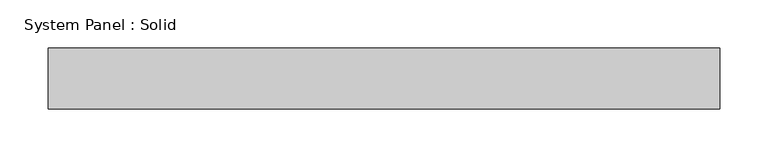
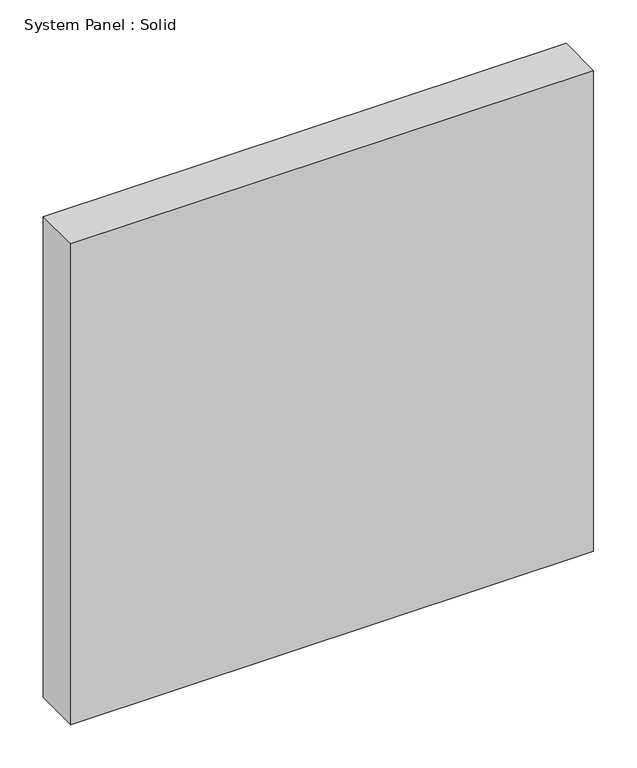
"""IFC4 building model written with IfcOpenShell, lengths in millimetres: plate geometry, System Panel : Solid."""

from ifc_helpers import new_model, si_unit, origin, origin_with_axes, place, context, project, spatial, polyline, outline, extrude, source, transform, mapped, element, save


def system_panel_solid_6039f36e(model_context):
    return source(origin(), model_context, "Body", "SweptSolid", [
        extrude(outline(polyline([(349.25, -19.05), (-349.25, -19.05), (-349.25, 44.45), (349.25, 44.45), (349.25, -19.05)])), origin_with_axes(), (0.0, 0.0, 1.0), 678.75),
    ])


if __name__ == "__main__":
    model = new_model("IFC4")
    model_context = context("Model", 3, world=origin())
    ifc_project = project(units=[si_unit("LENGTHUNIT", "METRE", prefix="MILLI")], contexts=[model_context])
    site = spatial("IfcSite", under=ifc_project)
    building = spatial("IfcBuilding", under=site)
    placement = place(None, origin())
    system_panel_solid_shape = system_panel_solid_6039f36e(model_context)
    element("IfcPlate", 1, ObjectType="System Panel : Solid", at=placement, inside=building, context=model_context, shape_type="MappedRepresentation", body=[
        mapped(system_panel_solid_shape, transform((0.0, 0.0, 0.0), x_axis=(1.0, 0.0, 0.0), y_axis=(0.0, 1.0, 0.0), z_axis=(0.0, 0.0, 1.0))),
    ])
    save(model, "model.ifc")
